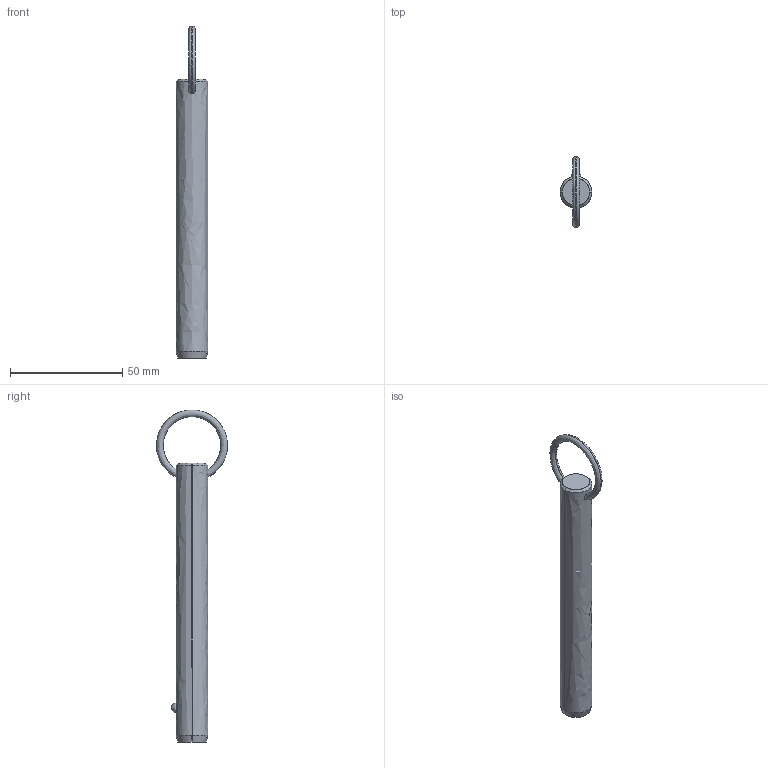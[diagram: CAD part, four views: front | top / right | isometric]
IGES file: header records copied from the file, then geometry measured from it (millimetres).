
Start section: SolidWorks IGES file using analytic representation for surfaces
Global section: file name: C:\Users\liam_\OneDrive\Documents\WORK\Work for WixRoyd\Job Files\J-00019 - Matt Davis CAD Checking\04. CAD Drawings\automotion20190605\P1250.2_v2\P1250.2_v2_20190729_IGES\P1250.056-390.igs; native system: SolidWorks 2017; preprocessor: SolidWorks 2017; author: liam_; date: 190729.232154; units: millimetre
Bounding box: 14.2 x 31.7 x 148.19 mm (x, y, z)
Surface area: 6515.4 mm2 (no closed solid volume)
Topology: 0 solids, 0 shells, 12 faces, 285 edges, 283 vertices
Faces by surface type: revolution 8, bspline 4
